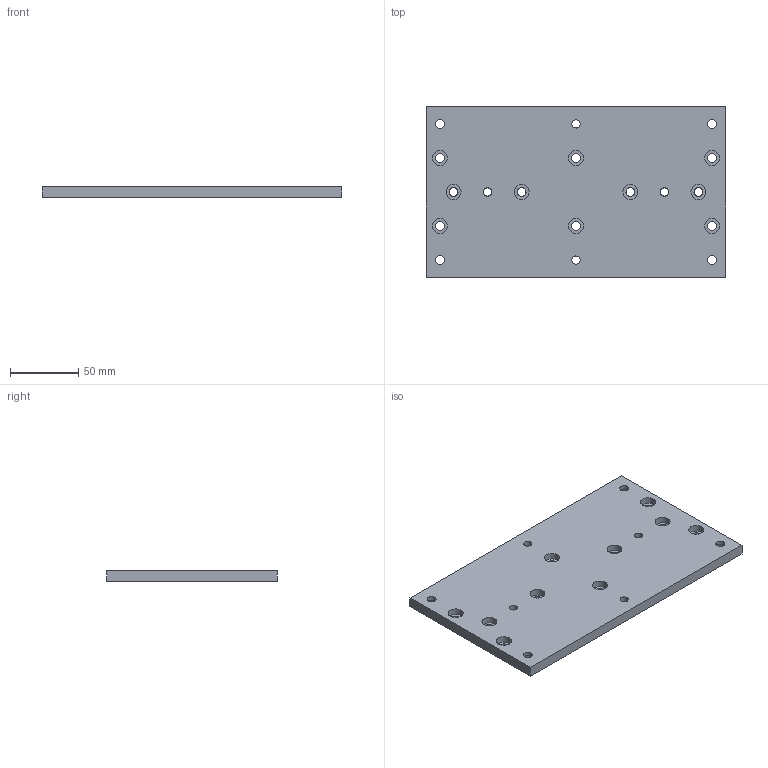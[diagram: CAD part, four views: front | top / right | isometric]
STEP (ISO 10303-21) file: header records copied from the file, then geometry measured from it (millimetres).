
FILE_DESCRIPTION (( 'STEP AP203' ), '1' );
FILE_NAME ('_-_PS6.step', '2005-09-07T09:26:06', ( ' ' ), ( ' ' ), 'SwSTEP 2.0', 'SolidWorks 2005187', '' );
FILE_SCHEMA (( 'CONFIG_CONTROL_DESIGN' ));
Length unit declared in the file: millimetre
Products named in the file (2): TE1054 Schlittenplatte PS6_Standard; _-_PS6
Assembly tree (1 placements, depth 2):
  _-_PS6
    TE1054 Schlittenplatte PS6_Standard
Bounding box: 220 x 125 x 8 mm (x, y, z)
Volume: 211006 mm3; surface area: 63228.9 mm2
Topology: 1 solids, 1 shells, 84 faces, 204 edges, 136 vertices
Faces by surface type: cylinder 64, plane 20
Entity records: 2804 total; most frequent: DIRECTION 508, CARTESIAN_POINT 428, ORIENTED_EDGE 408, AXIS2_PLACEMENT_3D 216, EDGE_CURVE 204, VERTEX_POINT 136, EDGE_LOOP 134, CIRCLE 128
